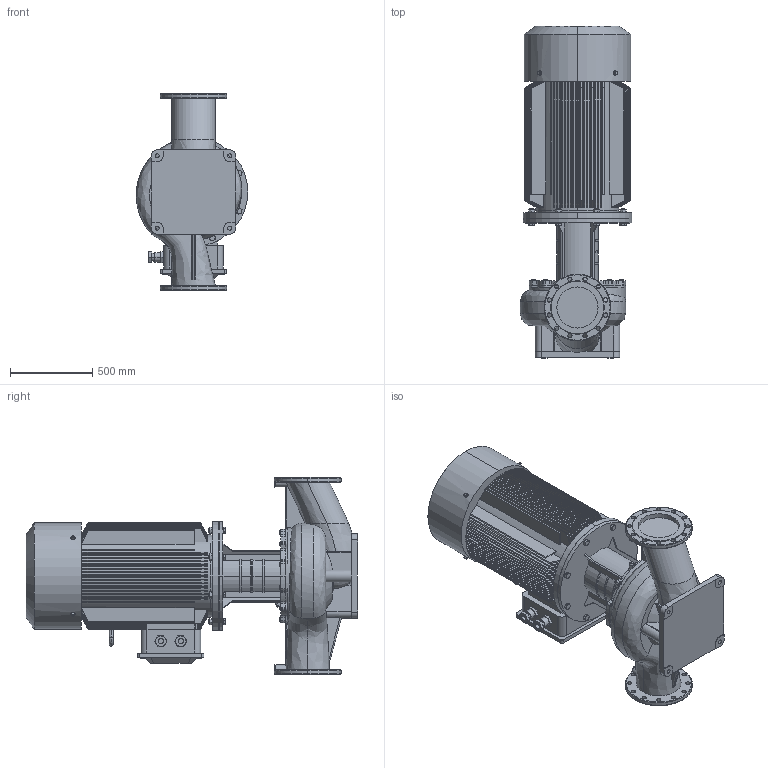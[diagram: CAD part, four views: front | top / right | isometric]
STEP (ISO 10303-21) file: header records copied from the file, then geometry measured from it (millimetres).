
FILE_DESCRIPTION (( 'STEP AP203' ), '1' );
FILE_NAME ('TD250-50G／4.STEP', '2026-09-07T03:27:51', ( '' ), ( '' ), 'SwSTEP 2.0', 'SolidWorks 2020', '' );
FILE_SCHEMA (( 'CONFIG_CONTROL_DESIGN' ));
Products named in the file (1): TD250-50Gㄞ4
Bounding box: 677.52 x 2014 x 1200 mm (x, y, z)
Volume: 509941547.4 mm3; surface area: 15175901 mm2
Topology: 1 solids, 23 shells, 2132 faces, 5315 edges, 3297 vertices
Faces by surface type: plane 870, cylinder 584, cone 547, torus 85, sphere 24, bspline 22
Entity records: 87978 total; most frequent: CARTESIAN_POINT 37819, ORIENTED_EDGE 10578, DIRECTION 10432, EDGE_CURVE 5289, AXIS2_PLACEMENT_3D 4130, VERTEX_POINT 3297, EDGE_LOOP 2302, LINE 2172
